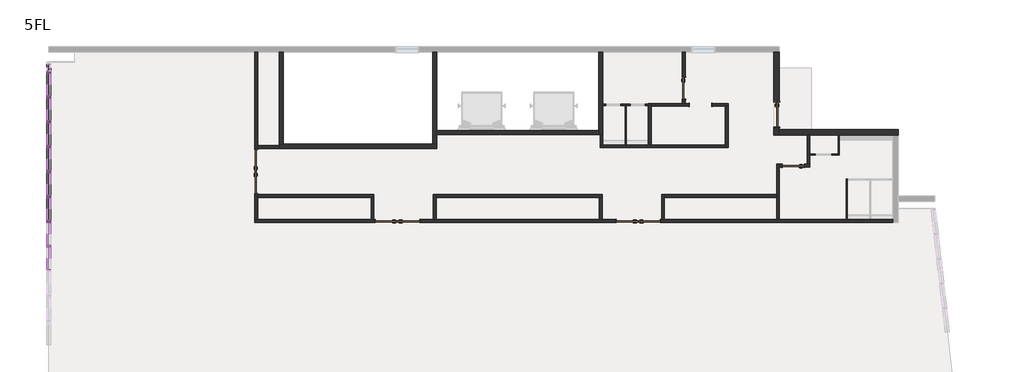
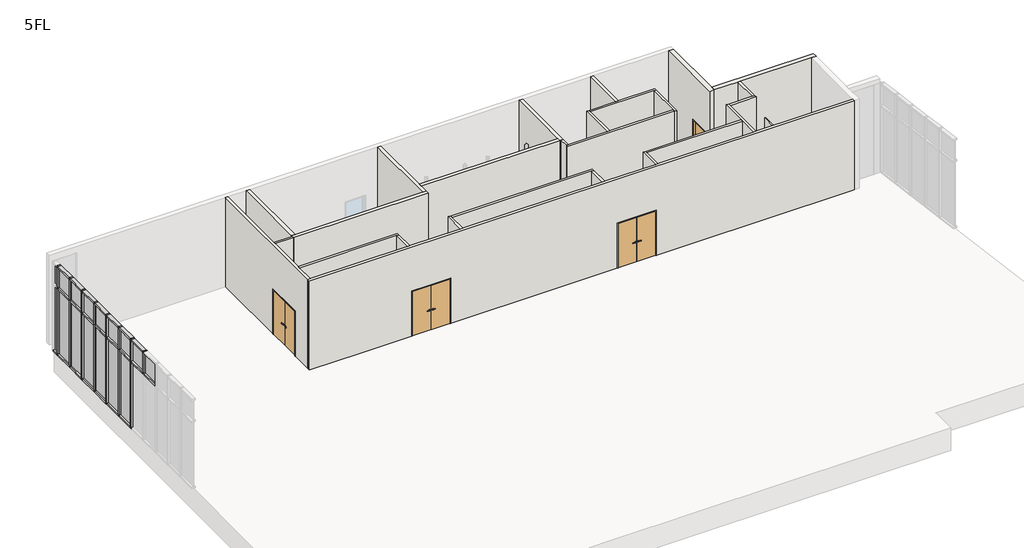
# One storey, part 3 of 4: 37 members, 31 walls, 16 plates, 7 doors.
"""IFC4 building model written with IfcOpenShell, lengths in millimetres."""

from ifc_helpers import new_model, si_unit, frame, origin, place, context, project, spatial, polyline, outline, extrude, faceted_brep, transform, mapped, element, save
from components import door_1de376c6, w800h2000_3f366617, w800h2000_fc627520, w800h2000_d76b1b72, w900h2000_8d150256, member_70x150_cdd4dcf9, member_70x150_66cf63de, member_70x150_26475b18, member_70x150_ad4265bc, member_70x150_a15bb337, plate_28587fd3, plate_396bcf3c, plate_4066ba05, plate_ba683b9a

model = new_model("IFC4")

# Units and contexts
model_context = context("Model", 3, world=origin())
ifc_project = project(units=[si_unit("LENGTHUNIT", "METRE", prefix="MILLI")], contexts=[model_context])

# Site, building, storey
site = spatial("IfcSite", under=ifc_project)
building = spatial("IfcBuilding", under=site)
storey = spatial("IfcBuildingStorey", under=building, Name="5FL", Elevation=16600.0)

# Doors
placement = place(None, origin())
door_shape = door_1de376c6(model_context)
element("IfcDoor", 1, ObjectType="両開き戸 : 両開き：w1600h2000", at=placement, inside=storey, context=model_context, shape_type="MappedRepresentation", body=[
    mapped(door_shape, transform((-21845.9784025, 12245.6585069, 16600.0), x_axis=(0.0, 1.0, 0.0), y_axis=(-1.0, 0.0, 0.0), z_axis=(0.0, 0.0, 1.0))),
])
element("IfcDoor", 2, ObjectType="両開き戸 : 両開き：w1600h2000", at=placement, inside=storey, context=model_context, shape_type="MappedRepresentation", body=[
    mapped(door_shape, transform((-16754.4500107, 10449.6868987, 16600.0), x_axis=(-1.0, 0.0, 0.0), y_axis=(0.0, -1.0, 0.0), z_axis=(0.0, 0.0, 1.0))),
])
element("IfcDoor", 3, ObjectType="両開き戸 : 両開き：w1600h2000", at=placement, inside=storey, context=model_context, shape_type="MappedRepresentation", body=[
    mapped(door_shape, transform((-8054.4500107, 10449.6868987, 16600.0), x_axis=(-1.0, 0.0, 0.0), y_axis=(0.0, -1.0, 0.0), z_axis=(0.0, 0.0, 1.0))),
])
w800h2000_shape = w800h2000_3f366617(model_context)
element("IfcDoor", 4, ObjectType="片開き戸 : w800h2000", at=placement, inside=storey, context=model_context, shape_type="MappedRepresentation", body=[
    mapped(w800h2000_shape, transform((-2445.9784025, 12449.6868987, 16600.0), x_axis=(-1.0, 0.0, 0.0), y_axis=(0.0, -1.0, 0.0), z_axis=(0.0, 0.0, 1.0))),
])
w800h2000_2_shape = w800h2000_fc627520(model_context)
element("IfcDoor", 5, ObjectType="片開き戸 : w800h2000", at=placement, inside=storey, context=model_context, shape_type="MappedRepresentation", body=[
    mapped(w800h2000_2_shape, transform((-6395.9784025, 15249.6868987, 16600.0), x_axis=(0.0, -1.0, 0.0), y_axis=(1.0, 0.0, 0.0), z_axis=(0.0, 0.0, 1.0))),
])
w800h2000_3_shape = w800h2000_d76b1b72(model_context)
element("IfcDoor", 6, ObjectType="開口枠あり : w800h2000", at=placement, inside=storey, context=model_context, shape_type="MappedRepresentation", body=[
    mapped(w800h2000_3_shape, transform((-5795.9784025, 14649.6868987, 16600.0), x_axis=(-1.0, 0.0, 0.0), y_axis=(0.0, -1.0, 0.0), z_axis=(0.0, 0.0, 1.0))),
])
w900h2000_shape = w900h2000_8d150256(model_context)
element("IfcDoor", 7, ObjectType="片開き戸 : w900h2000", at=placement, inside=storey, context=model_context, shape_type="MappedRepresentation", body=[
    mapped(w900h2000_shape, transform((-3045.9784025, 14299.6868987, 16600.0), x_axis=(0.0, -1.0, 0.0), y_axis=(1.0, 0.0, 0.0), z_axis=(0.0, 0.0, 1.0))),
])

# Members
member_70x150_shape = member_70x150_cdd4dcf9(model_context)
element("IfcMember", 8, ObjectType="長方形のマリオン : 70x150", at=placement, inside=storey, context=model_context, shape_type="MappedRepresentation", body=[
    mapped(member_70x150_shape, transform((-29345.9784025, 15834.6868987, 16600.0), x_axis=(0.0, 1.0, 0.0), y_axis=(1.0, 0.0, 0.0), z_axis=(0.0, 0.0, -1.0))),
])
element("IfcMember", 9, ObjectType="長方形のマリオン : 70x150", at=placement, inside=storey, context=model_context, shape_type="MappedRepresentation", body=[
    mapped(member_70x150_shape, transform((-29345.9784025, 14934.6868987, 16600.0), x_axis=(0.0, 1.0, 0.0), y_axis=(1.0, 0.0, 0.0), z_axis=(0.0, 0.0, -1.0))),
])
element("IfcMember", 10, ObjectType="長方形のマリオン : 70x150", at=placement, inside=storey, context=model_context, shape_type="MappedRepresentation", body=[
    mapped(member_70x150_shape, transform((-29345.9784025, 14034.6868987, 16600.0), x_axis=(0.0, 1.0, 0.0), y_axis=(1.0, 0.0, 0.0), z_axis=(0.0, 0.0, -1.0))),
])
element("IfcMember", 11, ObjectType="長方形のマリオン : 70x150", at=placement, inside=storey, context=model_context, shape_type="MappedRepresentation", body=[
    mapped(member_70x150_shape, transform((-29345.9784025, 13134.6868987, 16600.0), x_axis=(0.0, 1.0, 0.0), y_axis=(1.0, 0.0, 0.0), z_axis=(0.0, 0.0, -1.0))),
])
element("IfcMember", 12, ObjectType="長方形のマリオン : 70x150", at=placement, inside=storey, context=model_context, shape_type="MappedRepresentation", body=[
    mapped(member_70x150_shape, transform((-29345.9784025, 12234.6868987, 16600.0), x_axis=(0.0, 1.0, 0.0), y_axis=(1.0, 0.0, 0.0), z_axis=(0.0, 0.0, -1.0))),
])
element("IfcMember", 13, ObjectType="長方形のマリオン : 70x150", at=placement, inside=storey, context=model_context, shape_type="MappedRepresentation", body=[
    mapped(member_70x150_shape, transform((-29345.9784025, 11334.6868987, 16600.0), x_axis=(0.0, 1.0, 0.0), y_axis=(1.0, 0.0, 0.0), z_axis=(0.0, 0.0, -1.0))),
])
element("IfcMember", 14, ObjectType="長方形のマリオン : 70x150", at=placement, inside=storey, context=model_context, shape_type="MappedRepresentation", body=[
    mapped(member_70x150_shape, transform((-29345.9784025, 10434.6868987, 16600.0), x_axis=(0.0, 1.0, 0.0), y_axis=(1.0, 0.0, 0.0), z_axis=(0.0, 0.0, -1.0))),
])
member_70x150_2_shape = member_70x150_66cf63de(model_context)
element("IfcMember", 15, ObjectType="長方形のマリオン : 70x150", at=placement, inside=storey, context=model_context, shape_type="MappedRepresentation", body=[
    mapped(member_70x150_2_shape, transform((-29345.9784025, 14969.6868987, 16600.0), x_axis=(0.0, 0.0, -1.0), y_axis=(1.0, 0.0, 0.0), z_axis=(0.0, -1.0, 0.0))),
])
element("IfcMember", 16, ObjectType="長方形のマリオン : 70x150", at=placement, inside=storey, context=model_context, shape_type="MappedRepresentation", body=[
    mapped(member_70x150_2_shape, transform((-29345.9784025, 14069.6868987, 16600.0), x_axis=(0.0, 0.0, -1.0), y_axis=(1.0, 0.0, 0.0), z_axis=(0.0, -1.0, 0.0))),
])
element("IfcMember", 17, ObjectType="長方形のマリオン : 70x150", at=placement, inside=storey, context=model_context, shape_type="MappedRepresentation", body=[
    mapped(member_70x150_2_shape, transform((-29345.9784025, 13169.6868987, 16600.0), x_axis=(0.0, 0.0, -1.0), y_axis=(1.0, 0.0, 0.0), z_axis=(0.0, -1.0, 0.0))),
])
element("IfcMember", 18, ObjectType="長方形のマリオン : 70x150", at=placement, inside=storey, context=model_context, shape_type="MappedRepresentation", body=[
    mapped(member_70x150_2_shape, transform((-29345.9784025, 12269.6868987, 16600.0), x_axis=(0.0, 0.0, -1.0), y_axis=(1.0, 0.0, 0.0), z_axis=(0.0, -1.0, 0.0))),
])
element("IfcMember", 19, ObjectType="長方形のマリオン : 70x150", at=placement, inside=storey, context=model_context, shape_type="MappedRepresentation", body=[
    mapped(member_70x150_2_shape, transform((-29345.9784025, 11369.6868987, 16600.0), x_axis=(0.0, 0.0, -1.0), y_axis=(1.0, 0.0, 0.0), z_axis=(0.0, -1.0, 0.0))),
])
element("IfcMember", 20, ObjectType="長方形のマリオン : 70x150", at=placement, inside=storey, context=model_context, shape_type="MappedRepresentation", body=[
    mapped(member_70x150_2_shape, transform((-29345.9784025, 10469.6868987, 16600.0), x_axis=(0.0, 0.0, -1.0), y_axis=(1.0, 0.0, 0.0), z_axis=(0.0, -1.0, 0.0))),
])
element("IfcMember", 21, ObjectType="長方形のマリオン : 70x150", at=placement, inside=storey, context=model_context, shape_type="MappedRepresentation", body=[
    mapped(member_70x150_2_shape, transform((-29345.9784025, 15799.6868987, 20600.0), x_axis=(0.0, 0.0, 1.0), y_axis=(1.0, 0.0, 0.0), z_axis=(0.0, 1.0, 0.0))),
])
element("IfcMember", 22, ObjectType="長方形のマリオン : 70x150", at=placement, inside=storey, context=model_context, shape_type="MappedRepresentation", body=[
    mapped(member_70x150_2_shape, transform((-29345.9784025, 14899.6868987, 20600.0), x_axis=(0.0, 0.0, 1.0), y_axis=(1.0, 0.0, 0.0), z_axis=(0.0, 1.0, 0.0))),
])
element("IfcMember", 23, ObjectType="長方形のマリオン : 70x150", at=placement, inside=storey, context=model_context, shape_type="MappedRepresentation", body=[
    mapped(member_70x150_2_shape, transform((-29345.9784025, 13999.6868987, 20600.0), x_axis=(0.0, 0.0, 1.0), y_axis=(1.0, 0.0, 0.0), z_axis=(0.0, 1.0, 0.0))),
])
element("IfcMember", 24, ObjectType="長方形のマリオン : 70x150", at=placement, inside=storey, context=model_context, shape_type="MappedRepresentation", body=[
    mapped(member_70x150_2_shape, transform((-29345.9784025, 13099.6868987, 20600.0), x_axis=(0.0, 0.0, 1.0), y_axis=(1.0, 0.0, 0.0), z_axis=(0.0, 1.0, 0.0))),
])
element("IfcMember", 25, ObjectType="長方形のマリオン : 70x150", at=placement, inside=storey, context=model_context, shape_type="MappedRepresentation", body=[
    mapped(member_70x150_2_shape, transform((-29345.9784025, 12199.6868987, 20600.0), x_axis=(0.0, 0.0, 1.0), y_axis=(1.0, 0.0, 0.0), z_axis=(0.0, 1.0, 0.0))),
])
element("IfcMember", 26, ObjectType="長方形のマリオン : 70x150", at=placement, inside=storey, context=model_context, shape_type="MappedRepresentation", body=[
    mapped(member_70x150_2_shape, transform((-29345.9784025, 11299.6868987, 20600.0), x_axis=(0.0, 0.0, 1.0), y_axis=(1.0, 0.0, 0.0), z_axis=(0.0, 1.0, 0.0))),
])
element("IfcMember", 27, ObjectType="長方形のマリオン : 70x150", at=placement, inside=storey, context=model_context, shape_type="MappedRepresentation", body=[
    mapped(member_70x150_2_shape, transform((-29345.9784025, 10399.6868987, 20600.0), x_axis=(0.0, 0.0, 1.0), y_axis=(1.0, 0.0, 0.0), z_axis=(0.0, 1.0, 0.0))),
])
member_70x150_3_shape = member_70x150_26475b18(model_context)
element("IfcMember", 28, ObjectType="長方形のマリオン : 70x150", at=placement, inside=storey, context=model_context, shape_type="MappedRepresentation", body=[
    mapped(member_70x150_3_shape, transform((-29345.9784025, 15834.6868987, 19600.0), x_axis=(0.0, 1.0, 0.0), y_axis=(1.0, 0.0, 0.0), z_axis=(0.0, 0.0, -1.0))),
])
element("IfcMember", 29, ObjectType="長方形のマリオン : 70x150", at=placement, inside=storey, context=model_context, shape_type="MappedRepresentation", body=[
    mapped(member_70x150_3_shape, transform((-29345.9784025, 14934.6868987, 19600.0), x_axis=(0.0, 1.0, 0.0), y_axis=(1.0, 0.0, 0.0), z_axis=(0.0, 0.0, -1.0))),
])
element("IfcMember", 30, ObjectType="長方形のマリオン : 70x150", at=placement, inside=storey, context=model_context, shape_type="MappedRepresentation", body=[
    mapped(member_70x150_3_shape, transform((-29345.9784025, 14034.6868987, 19600.0), x_axis=(0.0, 1.0, 0.0), y_axis=(1.0, 0.0, 0.0), z_axis=(0.0, 0.0, -1.0))),
])
element("IfcMember", 31, ObjectType="長方形のマリオン : 70x150", at=placement, inside=storey, context=model_context, shape_type="MappedRepresentation", body=[
    mapped(member_70x150_3_shape, transform((-29345.9784025, 13134.6868987, 19600.0), x_axis=(0.0, 1.0, 0.0), y_axis=(1.0, 0.0, 0.0), z_axis=(0.0, 0.0, -1.0))),
])
element("IfcMember", 32, ObjectType="長方形のマリオン : 70x150", at=placement, inside=storey, context=model_context, shape_type="MappedRepresentation", body=[
    mapped(member_70x150_3_shape, transform((-29345.9784025, 12234.6868987, 19600.0), x_axis=(0.0, 1.0, 0.0), y_axis=(1.0, 0.0, 0.0), z_axis=(0.0, 0.0, -1.0))),
])
element("IfcMember", 33, ObjectType="長方形のマリオン : 70x150", at=placement, inside=storey, context=model_context, shape_type="MappedRepresentation", body=[
    mapped(member_70x150_3_shape, transform((-29345.9784025, 11334.6868987, 19600.0), x_axis=(0.0, 1.0, 0.0), y_axis=(1.0, 0.0, 0.0), z_axis=(0.0, 0.0, -1.0))),
])
element("IfcMember", 34, ObjectType="長方形のマリオン : 70x150", at=placement, inside=storey, context=model_context, shape_type="MappedRepresentation", body=[
    mapped(member_70x150_3_shape, transform((-29345.9784025, 10434.6868987, 19600.0), x_axis=(0.0, 1.0, 0.0), y_axis=(1.0, 0.0, 0.0), z_axis=(0.0, 0.0, -1.0))),
])
element("IfcMember", 35, ObjectType="長方形のマリオン : 70x150", at=placement, inside=storey, context=model_context, shape_type="MappedRepresentation", body=[
    mapped(member_70x150_3_shape, transform((-29345.9784025, 9534.6868987, 19600.0), x_axis=(0.0, 1.0, 0.0), y_axis=(1.0, 0.0, 0.0), z_axis=(0.0, 0.0, -1.0))),
])
member_70x150_4_shape = member_70x150_ad4265bc(model_context)
element("IfcMember", 36, ObjectType="長方形のマリオン : 70x150", at=placement, inside=storey, context=model_context, shape_type="MappedRepresentation", body=[
    mapped(member_70x150_4_shape, transform((-29345.9784025, 12199.6868987, 19600.0), x_axis=(0.0, 0.0, 1.0), y_axis=(1.0, 0.0, 0.0), z_axis=(0.0, 1.0, 0.0))),
])
element("IfcMember", 37, ObjectType="長方形のマリオン : 70x150", at=placement, inside=storey, context=model_context, shape_type="MappedRepresentation", body=[
    mapped(member_70x150_4_shape, transform((-29345.9784025, 9499.6868987, 19600.0), x_axis=(0.0, 0.0, 1.0), y_axis=(1.0, 0.0, 0.0), z_axis=(0.0, 1.0, 0.0))),
])
element("IfcMember", 38, ObjectType="長方形のマリオン : 70x150", at=placement, inside=storey, context=model_context, shape_type="MappedRepresentation", body=[
    mapped(member_70x150_4_shape, transform((-29345.9784025, 10399.6868987, 19600.0), x_axis=(0.0, 0.0, 1.0), y_axis=(1.0, 0.0, 0.0), z_axis=(0.0, 1.0, 0.0))),
])
element("IfcMember", 39, ObjectType="長方形のマリオン : 70x150", at=placement, inside=storey, context=model_context, shape_type="MappedRepresentation", body=[
    mapped(member_70x150_4_shape, transform((-29345.9784025, 13099.6868987, 19600.0), x_axis=(0.0, 0.0, 1.0), y_axis=(1.0, 0.0, 0.0), z_axis=(0.0, 1.0, 0.0))),
])
element("IfcMember", 40, ObjectType="長方形のマリオン : 70x150", at=placement, inside=storey, context=model_context, shape_type="MappedRepresentation", body=[
    mapped(member_70x150_4_shape, transform((-29345.9784025, 13999.6868987, 19600.0), x_axis=(0.0, 0.0, 1.0), y_axis=(1.0, 0.0, 0.0), z_axis=(0.0, 1.0, 0.0))),
])
element("IfcMember", 41, ObjectType="長方形のマリオン : 70x150", at=placement, inside=storey, context=model_context, shape_type="MappedRepresentation", body=[
    mapped(member_70x150_4_shape, transform((-29345.9784025, 11299.6868987, 19600.0), x_axis=(0.0, 0.0, 1.0), y_axis=(1.0, 0.0, 0.0), z_axis=(0.0, 1.0, 0.0))),
])
element("IfcMember", 42, ObjectType="長方形のマリオン : 70x150", at=placement, inside=storey, context=model_context, shape_type="MappedRepresentation", body=[
    mapped(member_70x150_4_shape, transform((-29345.9784025, 15799.6868987, 19600.0), x_axis=(0.0, 0.0, 1.0), y_axis=(1.0, 0.0, 0.0), z_axis=(0.0, 1.0, 0.0))),
])
element("IfcMember", 43, ObjectType="長方形のマリオン : 70x150", at=placement, inside=storey, context=model_context, shape_type="MappedRepresentation", body=[
    mapped(member_70x150_4_shape, transform((-29345.9784025, 14899.6868987, 19600.0), x_axis=(0.0, 0.0, 1.0), y_axis=(1.0, 0.0, 0.0), z_axis=(0.0, 1.0, 0.0))),
])
member_70x150_5_shape = member_70x150_a15bb337(model_context)
element("IfcMember", 44, ObjectType="長方形のマリオン : 70x150", at=placement, inside=storey, context=model_context, shape_type="MappedRepresentation", body=[
    mapped(member_70x150_5_shape, transform((-29345.9784025, 15869.6868987, 16600.0), x_axis=(0.0, 0.0, -1.0), y_axis=(1.0, 0.0, 0.0), z_axis=(0.0, -1.0, 0.0))),
])

# Plates
plate_shape = plate_28587fd3(model_context)
element("IfcPlate", 45, ObjectType="システム パネル : 標準", at=placement, inside=storey, context=model_context, shape_type="MappedRepresentation", body=[
    mapped(plate_shape, transform((-29345.9784025, 10884.6868987, 16670.0), x_axis=(0.0, 1.0, 0.0), y_axis=(-1.0, 0.0, 0.0), z_axis=(0.0, 0.0, 1.0))),
])
element("IfcPlate", 46, ObjectType="システム パネル : 標準", at=placement, inside=storey, context=model_context, shape_type="MappedRepresentation", body=[
    mapped(plate_shape, transform((-29345.9784025, 11784.6868987, 16670.0), x_axis=(0.0, 1.0, 0.0), y_axis=(-1.0, 0.0, 0.0), z_axis=(0.0, 0.0, 1.0))),
])
element("IfcPlate", 47, ObjectType="システム パネル : 標準", at=placement, inside=storey, context=model_context, shape_type="MappedRepresentation", body=[
    mapped(plate_shape, transform((-29345.9784025, 12684.6868987, 16670.0), x_axis=(0.0, 1.0, 0.0), y_axis=(-1.0, 0.0, 0.0), z_axis=(0.0, 0.0, 1.0))),
])
element("IfcPlate", 48, ObjectType="システム パネル : 標準", at=placement, inside=storey, context=model_context, shape_type="MappedRepresentation", body=[
    mapped(plate_shape, transform((-29345.9784025, 13584.6868987, 16670.0), x_axis=(0.0, 1.0, 0.0), y_axis=(-1.0, 0.0, 0.0), z_axis=(0.0, 0.0, 1.0))),
])
element("IfcPlate", 49, ObjectType="システム パネル : 標準", at=placement, inside=storey, context=model_context, shape_type="MappedRepresentation", body=[
    mapped(plate_shape, transform((-29345.9784025, 14484.6868987, 16670.0), x_axis=(0.0, 1.0, 0.0), y_axis=(-1.0, 0.0, 0.0), z_axis=(0.0, 0.0, 1.0))),
])
element("IfcPlate", 50, ObjectType="システム パネル : 標準", at=placement, inside=storey, context=model_context, shape_type="MappedRepresentation", body=[
    mapped(plate_shape, transform((-29345.9784025, 15384.6868987, 16670.0), x_axis=(0.0, 1.0, 0.0), y_axis=(-1.0, 0.0, 0.0), z_axis=(0.0, 0.0, 1.0))),
])
plate_2_shape = plate_396bcf3c(model_context)
element("IfcPlate", 51, ObjectType="システム パネル : 標準", at=placement, inside=storey, context=model_context, shape_type="MappedRepresentation", body=[
    mapped(plate_2_shape, transform((-29345.9784025, 9084.6868987, 19635.0), x_axis=(0.0, 1.0, 0.0), y_axis=(-1.0, 0.0, 0.0), z_axis=(0.0, 0.0, 1.0))),
])
element("IfcPlate", 52, ObjectType="システム パネル : 標準", at=placement, inside=storey, context=model_context, shape_type="MappedRepresentation", body=[
    mapped(plate_2_shape, transform((-29345.9784025, 9984.6868987, 19635.0), x_axis=(0.0, 1.0, 0.0), y_axis=(-1.0, 0.0, 0.0), z_axis=(0.0, 0.0, 1.0))),
])
element("IfcPlate", 53, ObjectType="システム パネル : 標準", at=placement, inside=storey, context=model_context, shape_type="MappedRepresentation", body=[
    mapped(plate_2_shape, transform((-29345.9784025, 10884.6868987, 19635.0), x_axis=(0.0, 1.0, 0.0), y_axis=(-1.0, 0.0, 0.0), z_axis=(0.0, 0.0, 1.0))),
])
element("IfcPlate", 54, ObjectType="システム パネル : 標準", at=placement, inside=storey, context=model_context, shape_type="MappedRepresentation", body=[
    mapped(plate_2_shape, transform((-29345.9784025, 11784.6868987, 19635.0), x_axis=(0.0, 1.0, 0.0), y_axis=(-1.0, 0.0, 0.0), z_axis=(0.0, 0.0, 1.0))),
])
element("IfcPlate", 55, ObjectType="システム パネル : 標準", at=placement, inside=storey, context=model_context, shape_type="MappedRepresentation", body=[
    mapped(plate_2_shape, transform((-29345.9784025, 12684.6868987, 19635.0), x_axis=(0.0, 1.0, 0.0), y_axis=(-1.0, 0.0, 0.0), z_axis=(0.0, 0.0, 1.0))),
])
element("IfcPlate", 56, ObjectType="システム パネル : 標準", at=placement, inside=storey, context=model_context, shape_type="MappedRepresentation", body=[
    mapped(plate_2_shape, transform((-29345.9784025, 13584.6868987, 19635.0), x_axis=(0.0, 1.0, 0.0), y_axis=(-1.0, 0.0, 0.0), z_axis=(0.0, 0.0, 1.0))),
])
element("IfcPlate", 57, ObjectType="システム パネル : 標準", at=placement, inside=storey, context=model_context, shape_type="MappedRepresentation", body=[
    mapped(plate_2_shape, transform((-29345.9784025, 14484.6868987, 19635.0), x_axis=(0.0, 1.0, 0.0), y_axis=(-1.0, 0.0, 0.0), z_axis=(0.0, 0.0, 1.0))),
])
element("IfcPlate", 58, ObjectType="システム パネル : 標準", at=placement, inside=storey, context=model_context, shape_type="MappedRepresentation", body=[
    mapped(plate_2_shape, transform((-29345.9784025, 15384.6868987, 19635.0), x_axis=(0.0, 1.0, 0.0), y_axis=(-1.0, 0.0, 0.0), z_axis=(0.0, 0.0, 1.0))),
])
plate_3_shape = plate_4066ba05(model_context)
element("IfcPlate", 59, ObjectType="システム パネル : 標準", at=placement, inside=storey, context=model_context, shape_type="MappedRepresentation", body=[
    mapped(plate_3_shape, transform((-29345.9784025, 15999.6868987, 16670.0), x_axis=(0.0, 1.0, 0.0), y_axis=(-1.0, 0.0, 0.0), z_axis=(0.0, 0.0, 1.0))),
])
plate_4_shape = plate_ba683b9a(model_context)
element("IfcPlate", 60, ObjectType="システム パネル : 標準", at=placement, inside=storey, context=model_context, shape_type="MappedRepresentation", body=[
    mapped(plate_4_shape, transform((-29345.9784025, 15999.6868987, 19635.0), x_axis=(0.0, 1.0, 0.0), y_axis=(-1.0, 0.0, 0.0), z_axis=(0.0, 0.0, 1.0))),
])

# Walls
element("IfcWall", 61, ObjectType="標準200", at=placement, inside=storey, context=model_context, shape_type="Brep", body=[
    faceted_brep([(-3145.9784025, 16549.6868987, 16600.0), (-3145.9784025, 14774.6868987, 16600.0), (-3145.9784025, 14774.6868987, 18625.0), (-3145.9784025, 13824.6868987, 18625.0), (-3145.9784025, 13824.6868987, 16600.0), (-3145.9784025, 13549.6868987, 16600.0), (-3145.9784025, 13549.6868987, 20600.0), (-3145.9784025, 16549.6868987, 20600.0), (-2945.9784025, 14774.6868987, 18625.0), (-2945.9784025, 14774.6868987, 16600.0), (-2945.9784025, 16549.6868987, 16600.0), (-2945.9784025, 16549.6868987, 20600.0), (-2945.9784025, 13749.6868987, 20600.0), (-2945.9784025, 13549.6868987, 20600.0), (-2945.9784025, 13549.6868987, 16600.0), (-2945.9784025, 13749.6868987, 16600.0), (-2945.9784025, 13824.6868987, 16600.0), (-2945.9784025, 13824.6868987, 18625.0)], [[[0, 1, 2, 3, 4, 5, 6, 7]], [[8, 9, 10, 11, 12, 13, 14, 15, 16, 17]], [[10, 9, 1, 0]], [[16, 15, 14, 5, 4]], [[7, 6, 13, 12, 11]], [[0, 7, 11, 10]], [[6, 5, 14, 13]], [[4, 3, 17, 16]], [[2, 1, 9, 8]], [[3, 2, 8, 17]]]),
])
element("IfcWall", 62, ObjectType="標準200", at=placement, inside=storey, context=model_context, shape_type="Brep", body=[
    faceted_brep([(-2945.9784025, 13549.6868987, 16600.0), (-1945.9784025, 13549.6868987, 16600.0), (-1845.9784025, 13549.6868987, 16600.0), (-815.9784025, 13549.6868987, 16600.0), (-775.9784025, 13549.6868987, 16600.0), (1154.0215975, 13549.6868987, 16600.0), (1354.0215975, 13549.6868987, 16600.0), (1354.0215975, 13549.6868987, 20600.0), (1154.0215975, 13549.6868987, 20600.0), (-1845.9784025, 13549.6868987, 20600.0), (-1945.9784025, 13549.6868987, 20600.0), (-2945.9784025, 13549.6868987, 20600.0), (-2945.9784025, 13749.6868987, 16600.0), (-2945.9784025, 13749.6868987, 20600.0), (1354.0215975, 13749.6868987, 20600.0), (1354.0215975, 13749.6868987, 16600.0)], [[[0, 1, 2, 3, 4, 5, 6, 7, 8, 9, 10, 11]], [[12, 13, 14, 15]], [[6, 5, 4, 3, 2, 1, 0, 12, 15]], [[11, 10, 9, 8, 7, 14, 13]], [[0, 11, 13, 12]], [[7, 6, 15, 14]]]),
])
element("IfcWall", 63, ObjectType="標準150", at=placement, inside=storey, context=model_context, shape_type="Brep", body=[
    faceted_brep([(-9470.9784025, 16549.6868987, 16600.0), (-9470.9784025, 13724.6868987, 16600.0), (-9470.9784025, 13574.6868987, 16600.0), (-9470.9784025, 13574.6868987, 20600.0), (-9470.9784025, 13724.6868987, 20600.0), (-9470.9784025, 16549.6868987, 20600.0), (-9320.9784025, 16549.6868987, 16600.0), (-9320.9784025, 16549.6868987, 20600.0), (-9320.9784025, 13574.6868987, 20600.0), (-9320.9784025, 13574.6868987, 16600.0), (-9320.9784025, 14629.6868987, 16600.0), (-9320.9784025, 14669.6868987, 16600.0), (-9420.9784025, 13574.6868987, 16600.0), (-9420.9784025, 13574.6868987, 20600.0)], [[[0, 1, 2, 3, 4, 5]], [[6, 7, 8, 9, 10, 11]], [[2, 1, 0, 6, 11, 10, 9, 12]], [[5, 4, 3, 13, 8, 7]], [[0, 5, 7, 6]], [[3, 2, 12, 9, 8, 13]]]),
])
element("IfcWall", 64, ObjectType="標準150", at=placement, inside=storey, context=model_context, shape_type="SweptSolid", body=[
    extrude(outline(polyline([(-15320.9784025, 13724.6868987), (-9470.9784025, 13724.6868987), (-9470.9784025, 13574.6868987), (-15320.9784025, 13574.6868987), (-15320.9784025, 13724.6868987)])), frame((0.0, 0.0, 16600.0), z_axis=(0.0, 0.0, 1.0), x_axis=(1.0, 0.0, 0.0)), (0.0, 0.0, 1.0), 4000.0),
])
element("IfcWall", 65, ObjectType="標準150", at=placement, inside=storey, context=model_context, shape_type="Brep", body=[
    faceted_brep([(-15320.9784025, 13224.6868987, 16600.0), (-15320.9784025, 13574.6868987, 16600.0), (-15320.9784025, 13724.6868987, 16600.0), (-15320.9784025, 16549.6868987, 16600.0), (-15320.9784025, 16549.6868987, 20600.0), (-15320.9784025, 13724.6868987, 20600.0), (-15320.9784025, 13574.6868987, 20600.0), (-15320.9784025, 13224.6868987, 20600.0), (-15470.9784025, 13224.6868987, 16600.0), (-15470.9784025, 13224.6868987, 20600.0), (-15470.9784025, 16549.6868987, 20600.0), (-15470.9784025, 16549.6868987, 16600.0)], [[[0, 1, 2, 3, 4, 5, 6, 7]], [[8, 9, 10, 11]], [[3, 2, 1, 0, 8, 11]], [[7, 6, 5, 4, 10, 9]], [[4, 3, 11, 10]], [[0, 7, 9, 8]]]),
])
element("IfcWall", 66, ObjectType="標準150", at=placement, inside=storey, context=model_context, shape_type="Brep", body=[
    faceted_brep([(-15320.9784025, 13224.6868987, 16600.0), (-15470.9784025, 13224.6868987, 16600.0), (-20870.9784025, 13224.6868987, 16600.0), (-21020.9784025, 13224.6868987, 16600.0), (-21020.9784025, 13224.6868987, 20600.0), (-20870.9784025, 13224.6868987, 20600.0), (-15470.9784025, 13224.6868987, 20600.0), (-15320.9784025, 13224.6868987, 20600.0), (-15320.9784025, 13074.6868987, 16600.0), (-15320.9784025, 13074.6868987, 20600.0), (-21020.9784025, 13074.6868987, 20600.0), (-21020.9784025, 13074.6868987, 16600.0), (-21020.9784025, 13174.6868987, 16600.0), (-21020.9784025, 13174.6868987, 20600.0)], [[[0, 1, 2, 3, 4, 5, 6, 7]], [[8, 9, 10, 11]], [[3, 2, 1, 0, 8, 11, 12]], [[7, 6, 5, 4, 13, 10, 9]], [[4, 3, 12, 11, 10, 13]], [[0, 7, 9, 8]]]),
])
element("IfcWall", 67, ObjectType="標準150", at=placement, inside=storey, context=model_context, shape_type="SweptSolid", body=[
    extrude(outline(polyline([(-20870.9784025, 16549.6868987), (-20870.9784025, 13224.6868987), (-21020.9784025, 13224.6868987), (-21020.9784025, 16549.6868987), (-20870.9784025, 16549.6868987)])), frame((0.0, 0.0, 16600.0), z_axis=(0.0, 0.0, 1.0), x_axis=(1.0, 0.0, 0.0)), (0.0, 0.0, 1.0), 4000.0),
])
element("IfcWall", 68, ObjectType="標準100", at=placement, inside=storey, context=model_context, shape_type="Brep", body=[
    faceted_brep([(1154.0215975, 10499.6868987, 16600.0), (354.0215975, 10499.6868987, 16600.0), (314.0215975, 10499.6868987, 16600.0), (-485.9784025, 10499.6868987, 16600.0), (-525.9784025, 10499.6868987, 16600.0), (-2945.9784025, 10499.6868987, 16600.0), (-3045.9784025, 10499.6868987, 16600.0), (-7095.9784025, 10499.6868987, 16600.0), (-7195.9784025, 10499.6868987, 16600.0), (-7220.9784025, 10499.6868987, 16600.0), (-7220.9784025, 10499.6868987, 18625.0), (-8870.9784025, 10499.6868987, 18625.0), (-8870.9784025, 10499.6868987, 16600.0), (-9345.9784025, 10499.6868987, 16600.0), (-9445.9784025, 10499.6868987, 16600.0), (-15345.9784025, 10499.6868987, 16600.0), (-15445.9784025, 10499.6868987, 16600.0), (-15920.9784025, 10499.6868987, 16600.0), (-15920.9784025, 10499.6868987, 18625.0), (-17570.9784025, 10499.6868987, 18625.0), (-17570.9784025, 10499.6868987, 16600.0), (-17595.9784025, 10499.6868987, 16600.0), (-17695.9784025, 10499.6868987, 16600.0), (-21795.9784025, 10499.6868987, 16600.0), (-21895.9784025, 10499.6868987, 16600.0), (-21895.9784025, 10499.6868987, 20600.0), (-21795.9784025, 10499.6868987, 20600.0), (-17695.9784025, 10499.6868987, 20600.0), (-17595.9784025, 10499.6868987, 20600.0), (-15445.9784025, 10499.6868987, 20600.0), (-15345.9784025, 10499.6868987, 20600.0), (-9445.9784025, 10499.6868987, 20600.0), (-9345.9784025, 10499.6868987, 20600.0), (-7195.9784025, 10499.6868987, 20600.0), (-7095.9784025, 10499.6868987, 20600.0), (-3045.9784025, 10499.6868987, 20600.0), (-2945.9784025, 10499.6868987, 20600.0), (1154.0215975, 10499.6868987, 20600.0), (-7220.9784025, 10399.6868987, 18625.0), (-7220.9784025, 10399.6868987, 16600.0), (1154.0215975, 10399.6868987, 16600.0), (1154.0215975, 10399.6868987, 20600.0), (-21895.9784025, 10399.6868987, 20600.0), (-21895.9784025, 10399.6868987, 16600.0), (-17570.9784025, 10399.6868987, 16600.0), (-17570.9784025, 10399.6868987, 18625.0), (-15920.9784025, 10399.6868987, 18625.0), (-15920.9784025, 10399.6868987, 16600.0), (-8870.9784025, 10399.6868987, 16600.0), (-8870.9784025, 10399.6868987, 18625.0)], [[[0, 1, 2, 3, 4, 5, 6, 7, 8, 9, 10, 11, 12, 13, 14, 15, 16, 17, 18, 19, 20, 21, 22, 23, 24, 25, 26, 27, 28, 29, 30, 31, 32, 33, 34, 35, 36, 37]], [[38, 39, 40, 41, 42, 43, 44, 45, 46, 47, 48, 49]], [[44, 43, 24, 23, 22, 21, 20]], [[48, 47, 17, 16, 15, 14, 13, 12]], [[40, 39, 9, 8, 7, 6, 5, 4, 3, 2, 1, 0]], [[37, 36, 35, 34, 33, 32, 31, 30, 29, 28, 27, 26, 25, 42, 41]], [[25, 24, 43, 42]], [[0, 37, 41, 40]], [[20, 19, 45, 44]], [[18, 17, 47, 46]], [[19, 18, 46, 45]], [[12, 11, 49, 48]], [[10, 9, 39, 38]], [[11, 10, 38, 49]]]),
])
element("IfcWall", 69, ObjectType="標準100", at=placement, inside=storey, context=model_context, shape_type="Brep", body=[
    faceted_brep([(-21795.9784025, 10499.6868987, 16600.0), (-21795.9784025, 11299.6868987, 16600.0), (-21795.9784025, 11399.6868987, 16600.0), (-21795.9784025, 11412.1868987, 16600.0), (-21795.9784025, 11412.1868987, 18625.0), (-21795.9784025, 13062.1868987, 18625.0), (-21795.9784025, 13062.1868987, 16600.0), (-21795.9784025, 13074.6868987, 16600.0), (-21795.9784025, 13174.6868987, 16600.0), (-21795.9784025, 16549.6868987, 16600.0), (-21795.9784025, 16549.6868987, 20600.0), (-21795.9784025, 13174.6868987, 20600.0), (-21795.9784025, 13074.6868987, 20600.0), (-21795.9784025, 11399.6868987, 20600.0), (-21795.9784025, 11299.6868987, 20600.0), (-21795.9784025, 10499.6868987, 20600.0), (-21895.9784025, 11412.1868987, 18625.0), (-21895.9784025, 11412.1868987, 16600.0), (-21895.9784025, 10499.6868987, 16600.0), (-21895.9784025, 10499.6868987, 20600.0), (-21895.9784025, 16549.6868987, 20600.0), (-21895.9784025, 16549.6868987, 16600.0), (-21895.9784025, 13062.1868987, 16600.0), (-21895.9784025, 13062.1868987, 18625.0)], [[[0, 1, 2, 3, 4, 5, 6, 7, 8, 9, 10, 11, 12, 13, 14, 15]], [[16, 17, 18, 19, 20, 21, 22, 23]], [[22, 21, 9, 8, 7, 6]], [[18, 17, 3, 2, 1, 0]], [[15, 14, 13, 12, 11, 10, 20, 19]], [[0, 15, 19, 18]], [[10, 9, 21, 20]], [[6, 5, 23, 22]], [[4, 3, 17, 16]], [[5, 4, 16, 23]]]),
])
element("IfcWall", 70, ObjectType="標準100", at=placement, inside=storey, context=model_context, shape_type="Brep", body=[
    faceted_brep([(-2945.9784025, 10499.6868987, 16600.0), (-2945.9784025, 12399.6868987, 16600.0), (-2945.9784025, 12499.6868987, 16600.0), (-2945.9784025, 12499.6868987, 20600.0), (-2945.9784025, 12399.6868987, 20600.0), (-2945.9784025, 10499.6868987, 20600.0), (-3045.9784025, 10499.6868987, 16600.0), (-3045.9784025, 10499.6868987, 20600.0), (-3045.9784025, 11299.6868987, 20600.0), (-3045.9784025, 11399.6868987, 20600.0), (-3045.9784025, 12499.6868987, 20600.0), (-3045.9784025, 12499.6868987, 16600.0), (-3045.9784025, 11399.6868987, 16600.0), (-3045.9784025, 11299.6868987, 16600.0)], [[[0, 1, 2, 3, 4, 5]], [[6, 7, 8, 9, 10, 11, 12, 13]], [[2, 1, 0, 6, 13, 12, 11]], [[5, 4, 3, 10, 9, 8, 7]], [[0, 5, 7, 6]], [[3, 2, 11, 10]]]),
])
element("IfcWall", 71, ObjectType="標準100", at=placement, inside=storey, context=model_context, shape_type="Brep", body=[
    faceted_brep([(-7095.9784025, 10499.6868987, 16600.0), (-7095.9784025, 11299.6868987, 16600.0), (-7095.9784025, 11399.6868987, 16600.0), (-7095.9784025, 11399.6868987, 20600.0), (-7095.9784025, 11299.6868987, 20600.0), (-7095.9784025, 10499.6868987, 20600.0), (-7195.9784025, 10499.6868987, 16600.0), (-7195.9784025, 10499.6868987, 20600.0), (-7195.9784025, 11399.6868987, 20600.0), (-7195.9784025, 11399.6868987, 16600.0)], [[[0, 1, 2, 3, 4, 5]], [[6, 7, 8, 9]], [[2, 1, 0, 6, 9]], [[5, 4, 3, 8, 7]], [[0, 5, 7, 6]], [[3, 2, 9, 8]]]),
])
element("IfcWall", 72, ObjectType="標準100", at=placement, inside=storey, context=model_context, shape_type="SweptSolid", body=[
    extrude(outline(polyline([(-3045.9784025, 11299.6868987), (-7095.9784025, 11299.6868987), (-7095.9784025, 11399.6868987), (-3045.9784025, 11399.6868987), (-3045.9784025, 11299.6868987)])), frame((0.0, 0.0, 16600.0), z_axis=(0.0, 0.0, 1.0), x_axis=(1.0, 0.0, 0.0)), (0.0, 0.0, 1.0), 4000.0),
])
element("IfcWall", 73, ObjectType="標準100", at=placement, inside=storey, context=model_context, shape_type="Brep", body=[
    faceted_brep([(-15345.9784025, 10499.6868987, 16600.0), (-15345.9784025, 11299.6868987, 16600.0), (-15345.9784025, 11399.6868987, 16600.0), (-15345.9784025, 11399.6868987, 20600.0), (-15345.9784025, 11299.6868987, 20600.0), (-15345.9784025, 10499.6868987, 20600.0), (-15445.9784025, 10499.6868987, 16600.0), (-15445.9784025, 10499.6868987, 20600.0), (-15445.9784025, 11399.6868987, 20600.0), (-15445.9784025, 11399.6868987, 16600.0)], [[[0, 1, 2, 3, 4, 5]], [[6, 7, 8, 9]], [[2, 1, 0, 6, 9]], [[5, 4, 3, 8, 7]], [[0, 5, 7, 6]], [[3, 2, 9, 8]]]),
])
element("IfcWall", 74, ObjectType="標準100", at=placement, inside=storey, context=model_context, shape_type="Brep", body=[
    faceted_brep([(-15345.9784025, 11299.6868987, 16600.0), (-9445.9784025, 11299.6868987, 16600.0), (-9345.9784025, 11299.6868987, 16600.0), (-9345.9784025, 11299.6868987, 20600.0), (-9445.9784025, 11299.6868987, 20600.0), (-15345.9784025, 11299.6868987, 20600.0), (-15345.9784025, 11399.6868987, 16600.0), (-15345.9784025, 11399.6868987, 20600.0), (-9345.9784025, 11399.6868987, 20600.0), (-9345.9784025, 11399.6868987, 16600.0)], [[[0, 1, 2, 3, 4, 5]], [[6, 7, 8, 9]], [[2, 1, 0, 6, 9]], [[5, 4, 3, 8, 7]], [[0, 5, 7, 6]], [[3, 2, 9, 8]]]),
])
element("IfcWall", 75, ObjectType="標準100", at=placement, inside=storey, context=model_context, shape_type="SweptSolid", body=[
    extrude(outline(polyline([(-9445.9784025, 10499.6868987), (-9445.9784025, 11299.6868987), (-9345.9784025, 11299.6868987), (-9345.9784025, 10499.6868987), (-9445.9784025, 10499.6868987)])), frame((0.0, 0.0, 16600.0), z_axis=(0.0, 0.0, 1.0), x_axis=(1.0, 0.0, 0.0)), (0.0, 0.0, 1.0), 4000.0),
])
element("IfcWall", 76, ObjectType="標準100", at=placement, inside=storey, context=model_context, shape_type="Brep", body=[
    faceted_brep([(-21795.9784025, 11299.6868987, 16600.0), (-17695.9784025, 11299.6868987, 16600.0), (-17595.9784025, 11299.6868987, 16600.0), (-17595.9784025, 11299.6868987, 20600.0), (-17695.9784025, 11299.6868987, 20600.0), (-21795.9784025, 11299.6868987, 20600.0), (-21795.9784025, 11399.6868987, 16600.0), (-21795.9784025, 11399.6868987, 20600.0), (-17595.9784025, 11399.6868987, 20600.0), (-17595.9784025, 11399.6868987, 16600.0)], [[[0, 1, 2, 3, 4, 5]], [[6, 7, 8, 9]], [[2, 1, 0, 6, 9]], [[5, 4, 3, 8, 7]], [[0, 5, 7, 6]], [[3, 2, 9, 8]]]),
])
element("IfcWall", 77, ObjectType="標準100", at=placement, inside=storey, context=model_context, shape_type="SweptSolid", body=[
    extrude(outline(polyline([(-17695.9784025, 10499.6868987), (-17695.9784025, 11299.6868987), (-17595.9784025, 11299.6868987), (-17595.9784025, 10499.6868987), (-17695.9784025, 10499.6868987)])), frame((0.0, 0.0, 16600.0), z_axis=(0.0, 0.0, 1.0), x_axis=(1.0, 0.0, 0.0)), (0.0, 0.0, 1.0), 4000.0),
])
element("IfcWall", 78, ObjectType="標準100", at=placement, inside=storey, context=model_context, shape_type="SweptSolid", body=[
    extrude(outline(polyline([(-21020.9784025, 13074.6868987), (-21795.9784025, 13074.6868987), (-21795.9784025, 13174.6868987), (-21020.9784025, 13174.6868987), (-21020.9784025, 13074.6868987)])), frame((0.0, 0.0, 16600.0), z_axis=(0.0, 0.0, 1.0), x_axis=(1.0, 0.0, 0.0)), (0.0, 0.0, 1.0), 4000.0),
])
element("IfcWall", 79, ObjectType="標準100", at=placement, inside=storey, context=model_context, shape_type="SweptSolid", body=[
    extrude(outline(polyline([(16549.6868987, 16600.0), (15674.6868987, 16600.0), (15674.6868987, 18625.0), (14824.6868987, 18625.0), (14824.6868987, 16600.0), (14699.6868987, 16600.0), (14699.6868987, 20600.0), (16549.6868987, 20600.0), (16549.6868987, 16600.0)])), frame((-6445.9784025, 0.0, 0.0), z_axis=(1.0, 0.0, 0.0), x_axis=(0.0, 1.0, 0.0)), (0.0, 0.0, 1.0), 100.0),
])
element("IfcWall", 80, ObjectType="標準100", at=placement, inside=storey, context=model_context, shape_type="Brep", body=[
    faceted_brep([(-4895.9784025, 13199.6868987, 16600.0), (-7580.9784025, 13199.6868987, 16600.0), (-7680.9784025, 13199.6868987, 16600.0), (-8480.9784025, 13199.6868987, 16600.0), (-8520.9784025, 13199.6868987, 16600.0), (-9320.9784025, 13199.6868987, 16600.0), (-9420.9784025, 13199.6868987, 16600.0), (-9420.9784025, 13199.6868987, 20600.0), (-9320.9784025, 13199.6868987, 20600.0), (-7680.9784025, 13199.6868987, 20600.0), (-7580.9784025, 13199.6868987, 20600.0), (-4895.9784025, 13199.6868987, 20600.0), (-4895.9784025, 13099.6868987, 16600.0), (-4895.9784025, 13099.6868987, 20600.0), (-9420.9784025, 13099.6868987, 20600.0), (-9420.9784025, 13099.6868987, 16600.0)], [[[0, 1, 2, 3, 4, 5, 6, 7, 8, 9, 10, 11]], [[12, 13, 14, 15]], [[6, 5, 4, 3, 2, 1, 0, 12, 15]], [[11, 10, 9, 8, 7, 14, 13]], [[0, 11, 13, 12]], [[7, 6, 15, 14]]]),
])
element("IfcWall", 81, ObjectType="標準100", at=placement, inside=storey, context=model_context, shape_type="SweptSolid", body=[
    extrude(outline(polyline([(-9320.9784025, 13574.6868987), (-9320.9784025, 13199.6868987), (-9420.9784025, 13199.6868987), (-9420.9784025, 13574.6868987), (-9320.9784025, 13574.6868987)])), frame((0.0, 0.0, 16600.0), z_axis=(0.0, 0.0, 1.0), x_axis=(1.0, 0.0, 0.0)), (0.0, 0.0, 1.0), 4000.0),
])
element("IfcWall", 82, ObjectType="標準100", at=placement, inside=storey, context=model_context, shape_type="Brep", body=[
    faceted_brep([(-7580.9784025, 13199.6868987, 16600.0), (-7580.9784025, 14599.6868987, 16600.0), (-7580.9784025, 14699.6868987, 16600.0), (-7580.9784025, 14699.6868987, 20600.0), (-7580.9784025, 14599.6868987, 20600.0), (-7580.9784025, 13199.6868987, 20600.0), (-7680.9784025, 13199.6868987, 16600.0), (-7680.9784025, 13199.6868987, 20600.0), (-7680.9784025, 14699.6868987, 20600.0), (-7680.9784025, 14699.6868987, 16600.0), (-7680.9784025, 14669.6868987, 16600.0), (-7680.9784025, 14629.6868987, 16600.0)], [[[0, 1, 2, 3, 4, 5]], [[6, 7, 8, 9, 10, 11]], [[2, 1, 0, 6, 11, 10, 9]], [[5, 4, 3, 8, 7]], [[0, 5, 7, 6]], [[3, 2, 9, 8]]]),
])
element("IfcWall", 83, ObjectType="標準100", at=placement, inside=storey, context=model_context, shape_type="Brep", body=[
    faceted_brep([(-5370.9784025, 14599.6868987, 18625.0), (-5370.9784025, 14599.6868987, 16600.0), (-4895.9784025, 14599.6868987, 16600.0), (-4795.9784025, 14599.6868987, 16600.0), (-4795.9784025, 14599.6868987, 20600.0), (-4895.9784025, 14599.6868987, 20600.0), (-7580.9784025, 14599.6868987, 20600.0), (-7580.9784025, 14599.6868987, 16600.0), (-6220.9784025, 14599.6868987, 16600.0), (-6220.9784025, 14599.6868987, 18625.0), (-4795.9784025, 14699.6868987, 16600.0), (-5370.9784025, 14699.6868987, 16600.0), (-5370.9784025, 14699.6868987, 18625.0), (-6220.9784025, 14699.6868987, 18625.0), (-6220.9784025, 14699.6868987, 16600.0), (-6345.9784025, 14699.6868987, 16600.0), (-6445.9784025, 14699.6868987, 16600.0), (-7580.9784025, 14699.6868987, 16600.0), (-7580.9784025, 14699.6868987, 20600.0), (-6445.9784025, 14699.6868987, 20600.0), (-6345.9784025, 14699.6868987, 20600.0), (-4795.9784025, 14699.6868987, 20600.0)], [[[0, 1, 2, 3, 4, 5, 6, 7, 8, 9]], [[10, 11, 12, 13, 14, 15, 16, 17, 18, 19, 20, 21]], [[8, 7, 17, 16, 15, 14]], [[3, 2, 1, 11, 10]], [[6, 5, 4, 21, 20, 19, 18]], [[4, 3, 10, 21]], [[14, 13, 9, 8]], [[12, 11, 1, 0]], [[13, 12, 0, 9]], [[6, 18, 17, 7]]]),
])
element("IfcWall", 84, ObjectType="標準100", at=placement, inside=storey, context=model_context, shape_type="Brep", body=[
    faceted_brep([(-4895.9784025, 14599.6868987, 16600.0), (-4895.9784025, 13199.6868987, 16600.0), (-4895.9784025, 13099.6868987, 16600.0), (-4895.9784025, 13099.6868987, 20600.0), (-4895.9784025, 13199.6868987, 20600.0), (-4895.9784025, 14599.6868987, 20600.0), (-4795.9784025, 14599.6868987, 16600.0), (-4795.9784025, 14599.6868987, 20600.0), (-4795.9784025, 13099.6868987, 20600.0), (-4795.9784025, 13099.6868987, 16600.0)], [[[0, 1, 2, 3, 4, 5]], [[6, 7, 8, 9]], [[2, 1, 0, 6, 9]], [[5, 4, 3, 8, 7]], [[3, 2, 9, 8]], [[0, 5, 7, 6]]]),
])
element("IfcWall", 85, ObjectType="標準100", at=placement, inside=storey, context=model_context, shape_type="Brep", body=[
    faceted_brep([(-2020.9784025, 12399.6868987, 18625.0), (-2020.9784025, 12399.6868987, 16600.0), (-1845.9784025, 12399.6868987, 16600.0), (-1845.9784025, 12399.6868987, 20600.0), (-2945.9784025, 12399.6868987, 20600.0), (-2945.9784025, 12399.6868987, 16600.0), (-2870.9784025, 12399.6868987, 16600.0), (-2870.9784025, 12399.6868987, 18625.0), (-1845.9784025, 12499.6868987, 16600.0), (-1945.9784025, 12499.6868987, 16600.0), (-2020.9784025, 12499.6868987, 16600.0), (-2020.9784025, 12499.6868987, 18625.0), (-2870.9784025, 12499.6868987, 18625.0), (-2870.9784025, 12499.6868987, 16600.0), (-2945.9784025, 12499.6868987, 16600.0), (-2945.9784025, 12499.6868987, 20600.0), (-1945.9784025, 12499.6868987, 20600.0), (-1845.9784025, 12499.6868987, 20600.0)], [[[0, 1, 2, 3, 4, 5, 6, 7]], [[8, 9, 10, 11, 12, 13, 14, 15, 16, 17]], [[6, 5, 14, 13]], [[2, 1, 10, 9, 8]], [[4, 3, 17, 16, 15]], [[3, 2, 8, 17]], [[5, 4, 15, 14]], [[13, 12, 7, 6]], [[11, 10, 1, 0]], [[12, 11, 0, 7]]]),
])
element("IfcWall", 86, ObjectType="標準100", at=placement, inside=storey, context=model_context, shape_type="Brep", body=[
    faceted_brep([(-1845.9784025, 12499.6868987, 16600.0), (-1845.9784025, 12829.6868987, 16600.0), (-1845.9784025, 12869.6868987, 16600.0), (-1845.9784025, 13549.6868987, 16600.0), (-1845.9784025, 13549.6868987, 20600.0), (-1845.9784025, 12499.6868987, 20600.0), (-1945.9784025, 12499.6868987, 16600.0), (-1945.9784025, 12499.6868987, 20600.0), (-1945.9784025, 13549.6868987, 20600.0), (-1945.9784025, 13549.6868987, 16600.0)], [[[0, 1, 2, 3, 4, 5]], [[6, 7, 8, 9]], [[3, 2, 1, 0, 6, 9]], [[5, 4, 8, 7]], [[0, 5, 7, 6]], [[4, 3, 9, 8]]]),
])
element("IfcWall", 87, ObjectType="トイレブース 40", at=placement, inside=storey, context=model_context, shape_type="SweptSolid", body=[
    extrude(outline(polyline([(-8480.9784025, 14629.6868987), (-8480.9784025, 13199.6868987), (-8520.9784025, 13199.6868987), (-8520.9784025, 14629.6868987), (-8480.9784025, 14629.6868987)])), frame((0.0, 0.0, 16600.0), z_axis=(0.0, 0.0, 1.0), x_axis=(1.0, 0.0, 0.0)), (0.0, 0.0, 1.0), 2000.0),
])
element("IfcWall", 88, ObjectType="トイレブース 40", at=placement, inside=storey, context=model_context, shape_type="Brep", body=[
    faceted_brep([(-9320.9784025, 14629.6868987, 18600.0), (-9320.9784025, 14629.6868987, 16600.0), (-9223.4784025, 14629.6868987, 16600.0), (-9223.4784025, 14629.6868987, 18600.0), (-9320.9784025, 14669.6868987, 16600.0), (-9320.9784025, 14669.6868987, 18600.0), (-9223.4784025, 14669.6868987, 18600.0), (-9223.4784025, 14669.6868987, 16600.0)], [[[0, 1, 2, 3]], [[4, 5, 6, 7]], [[1, 4, 7, 2]], [[5, 0, 3, 6]], [[1, 0, 5, 4]], [[3, 2, 7, 6]]]),
    faceted_brep([(-7680.9784025, 14629.6868987, 16600.0), (-7680.9784025, 14629.6868987, 18600.0), (-7790.9784025, 14629.6868987, 18600.0), (-7790.9784025, 14629.6868987, 16600.0), (-7680.9784025, 14669.6868987, 18600.0), (-7680.9784025, 14669.6868987, 16600.0), (-7790.9784025, 14669.6868987, 16600.0), (-7790.9784025, 14669.6868987, 18600.0)], [[[0, 1, 2, 3]], [[4, 5, 6, 7]], [[5, 0, 3, 6]], [[1, 4, 7, 2]], [[1, 0, 5, 4]], [[3, 2, 7, 6]]]),
    faceted_brep([(-8673.4784025, 14629.6868987, 18600.0), (-8673.4784025, 14629.6868987, 16600.0), (-8520.9784025, 14629.6868987, 16600.0), (-8480.9784025, 14629.6868987, 16600.0), (-8340.9784025, 14629.6868987, 16600.0), (-8340.9784025, 14629.6868987, 18600.0), (-8480.9784025, 14629.6868987, 18600.0), (-8520.9784025, 14629.6868987, 18600.0), (-8673.4784025, 14669.6868987, 16600.0), (-8673.4784025, 14669.6868987, 18600.0), (-8340.9784025, 14669.6868987, 18600.0), (-8340.9784025, 14669.6868987, 16600.0)], [[[0, 1, 2, 3, 4, 5, 6, 7]], [[8, 9, 10, 11]], [[1, 8, 11, 4, 3, 2]], [[9, 0, 7, 6, 5, 10]], [[1, 0, 9, 8]], [[5, 4, 11, 10]]]),
])
element("IfcWall", 89, ObjectType="トイレブース 40", at=placement, inside=storey, context=model_context, shape_type="Brep", body=[
    faceted_brep([(-485.9784025, 10499.6868987, 16600.0), (-485.9784025, 11929.6868987, 16600.0), (-485.9784025, 11969.6868987, 16600.0), (-485.9784025, 11969.6868987, 18600.0), (-485.9784025, 11929.6868987, 18600.0), (-485.9784025, 10499.6868987, 18600.0), (-525.9784025, 10499.6868987, 16600.0), (-525.9784025, 10499.6868987, 18600.0), (-525.9784025, 11969.6868987, 18600.0), (-525.9784025, 11969.6868987, 16600.0)], [[[0, 1, 2, 3, 4, 5]], [[6, 7, 8, 9]], [[2, 1, 0, 6, 9]], [[5, 4, 3, 8, 7]], [[0, 5, 7, 6]], [[3, 2, 9, 8]]]),
])
element("IfcWall", 90, ObjectType="トイレブース 40", at=placement, inside=storey, context=model_context, shape_type="Brep", body=[
    faceted_brep([(-1845.9784025, 12829.6868987, 18600.0), (-1845.9784025, 12829.6868987, 16600.0), (-1645.9784025, 12829.6868987, 16600.0), (-1645.9784025, 12829.6868987, 18600.0), (-1845.9784025, 12869.6868987, 16600.0), (-1845.9784025, 12869.6868987, 18600.0), (-1645.9784025, 12869.6868987, 18600.0), (-1645.9784025, 12869.6868987, 16600.0)], [[[0, 1, 2, 3]], [[4, 5, 6, 7]], [[1, 4, 7, 2]], [[5, 0, 3, 6]], [[1, 0, 5, 4]], [[3, 2, 7, 6]]]),
    faceted_brep([(-775.9784025, 12829.6868987, 16600.0), (-775.9784025, 12829.6868987, 18600.0), (-1045.9784025, 12829.6868987, 18600.0), (-1045.9784025, 12829.6868987, 16600.0), (-775.9784025, 12869.6868987, 18600.0), (-775.9784025, 12869.6868987, 16600.0), (-815.9784025, 12869.6868987, 16600.0), (-1045.9784025, 12869.6868987, 16600.0), (-1045.9784025, 12869.6868987, 18600.0), (-815.9784025, 12869.6868987, 18600.0)], [[[0, 1, 2, 3]], [[4, 5, 6, 7, 8, 9]], [[5, 0, 3, 7, 6]], [[1, 4, 9, 8, 2]], [[1, 0, 5, 4]], [[3, 2, 8, 7]]]),
])
element("IfcWall", 91, ObjectType="トイレブース 40", at=placement, inside=storey, context=model_context, shape_type="SweptSolid", body=[
    extrude(outline(polyline([(-775.9784025, 13549.6868987), (-775.9784025, 12869.6868987), (-815.9784025, 12869.6868987), (-815.9784025, 13549.6868987), (-775.9784025, 13549.6868987)])), frame((0.0, 0.0, 16600.0), z_axis=(0.0, 0.0, 1.0), x_axis=(1.0, 0.0, 0.0)), (0.0, 0.0, 1.0), 2000.0),
])

save(model, "model.ifc")
